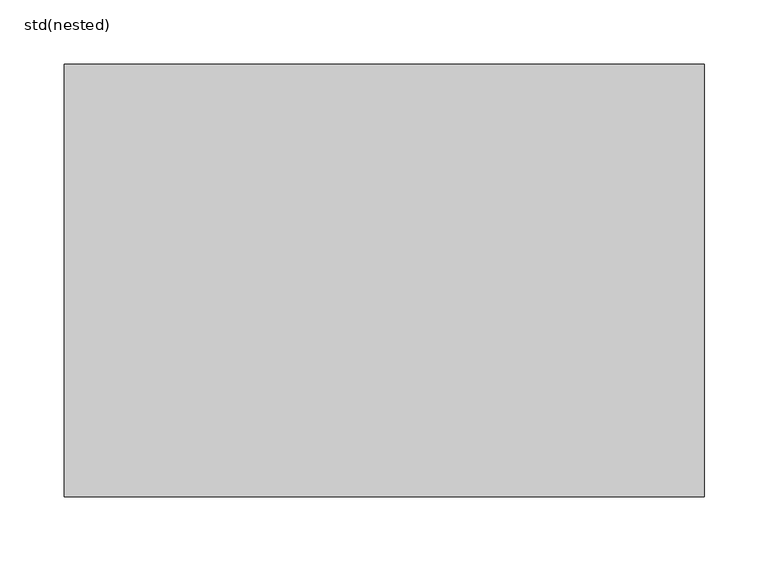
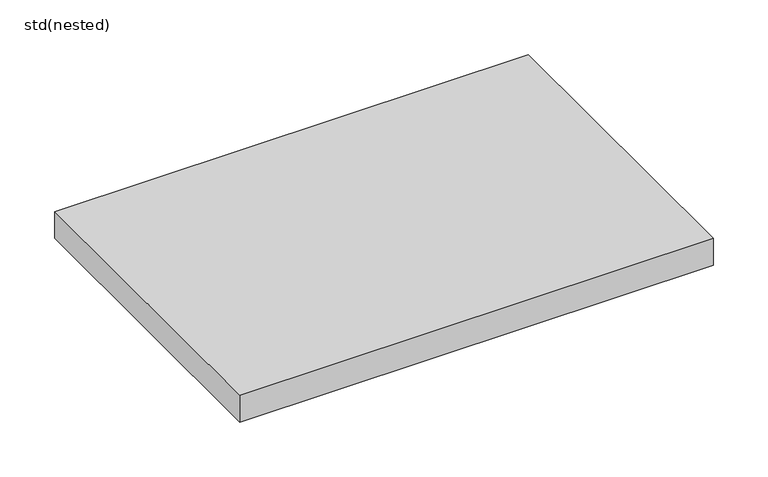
"""IFC4 building model written with IfcOpenShell, lengths in millimetres: sanitary terminal geometry, ZZZ_do not use_PF_ST_H300K_gratings_USA_ACO : std(nested)."""

import ifcopenshell
import ifcopenshell.guid

model = None  # the IFC model being written
_history = None  # IfcOwnerHistory: only IFC2X3 demands one
_inside = {}  # id of a spatial element -> (the spatial element, [elements in it])
_under = {}  # id of a project, library or spatial element -> (it, [spatial elements below it])
_declared = {}  # id of a project -> (the project, [libraries it declares])
_typed = {}  # id of a type object -> (the type object, [elements of that type])
_made_of = {}  # id of a material, layer set ... -> (it, [elements and type objects made of it])


def new_model(schema):
    """Start an empty IFC model of exactly this schema.

    Asked for "IFC4X3", IfcOpenShell would pick the latest addendum, in which some entities
    have other attributes; the version numbers below select the first issue.
    IFC2X3 requires an IfcOwnerHistory on every rooted entity: one is made here for all.
    """
    global model, _history
    if schema == "IFC4X3":
        model = ifcopenshell.file(schema_version=(4, 3, 0, 0))
    else:
        model = ifcopenshell.file(schema=schema)
    _inside.clear()
    _under.clear()
    _declared.clear()
    _typed.clear()
    _made_of.clear()
    _history = None
    if model.schema == "IFC2X3":
        org = make("IfcOrganization", Name="unknown")
        user = make(
            "IfcPersonAndOrganization",
            ThePerson=make("IfcPerson", FamilyName="unknown"),
            TheOrganization=org,
        )
        app = make(
            "IfcApplication",
            ApplicationDeveloper=org,
            Version="unknown",
            ApplicationFullName="unknown",
            ApplicationIdentifier="unknown",
        )
        _history = make(
            "IfcOwnerHistory",
            OwningUser=user,
            OwningApplication=app,
            ChangeAction="ADDED",
            CreationDate=0,
        )
    return model


def make(cls, **values):
    """One entity of the class cls with the attributes given. An attribute that is None is left unset."""
    return model.create_entity(
        cls, **{name: value for name, value in values.items() if value is not None}
    )


def rooted(cls, **values):
    """An entity with a GlobalId (a new one), such as an element, a storey or a relation."""
    return make(cls, GlobalId=ifcopenshell.guid.new(), OwnerHistory=_history, **values)


def si_unit(unit_type, name, prefix=None):
    """IfcSIUnit, for example si_unit("LENGTHUNIT", "METRE", prefix="MILLI")."""
    return make("IfcSIUnit", UnitType=unit_type, Prefix=prefix, Name=name)


def assignment(units):
    """IfcUnitAssignment: the units of a project."""
    return None if units is None else make("IfcUnitAssignment", Units=units)


def point(xyz):
    """IfcCartesianPoint."""
    return None if xyz is None else make("IfcCartesianPoint", Coordinates=xyz)


def direction(xyz):
    """IfcDirection."""
    return None if xyz is None else make("IfcDirection", DirectionRatios=xyz)


def frame(location, z_axis=None, x_axis=None):
    """IfcAxis2Placement3D, a coordinate frame: its origin and axes. An axis left out is left unset."""
    return make(
        "IfcAxis2Placement3D",
        Location=point(location),
        Axis=direction(z_axis),
        RefDirection=direction(x_axis),
    )


def origin():
    """The frame at (0, 0, 0) with its axes left unset."""
    return frame((0.0, 0.0, 0.0))


def place(relative_to, where):
    """IfcLocalPlacement: puts the frame where relative to a parent placement (None: the world)."""
    return make(
        "IfcLocalPlacement", PlacementRelTo=relative_to, RelativePlacement=where
    )


def context(
    kind, dimensions, precision=None, world=None, true_north=None, identifier=None
):
    """IfcGeometricRepresentationContext, for example the 3D "Model" context."""
    return make(
        "IfcGeometricRepresentationContext",
        ContextIdentifier=identifier,
        ContextType=kind,
        CoordinateSpaceDimension=dimensions,
        Precision=precision,
        WorldCoordinateSystem=world,
        TrueNorth=true_north,
    )


def project(units=None, contexts=None):
    """IfcProject with its units and contexts."""
    return rooted(
        "IfcProject",
        Name="project",
        RepresentationContexts=contexts,
        UnitsInContext=assignment(units),
    )


def spatial(cls, under=None, at=None, **own):
    """A site, building, storey or space (cls), placed at a placement, below another one or the project."""
    s = rooted(cls, ObjectPlacement=at, **own)
    if under is not None:
        _under.setdefault(under.id(), (under, []))[1].append(s)
    return s


def polyline(points):
    """IfcPolyline through the points."""
    return make("IfcPolyline", Points=[point(p) for p in points])


def outline(outer, holes=None, kind="AREA"):
    """IfcArbitraryClosedProfileDef: a profile drawn as a closed curve; with holes, ...WithVoids."""
    if holes is None:
        return make("IfcArbitraryClosedProfileDef", ProfileType=kind, OuterCurve=outer)
    return make(
        "IfcArbitraryProfileDefWithVoids",
        ProfileType=kind,
        OuterCurve=outer,
        InnerCurves=holes,
    )


def extrude(swept, where, along, depth):
    """IfcExtrudedAreaSolid: the profile swept, set in the frame where, extruded along a direction by depth."""
    return make(
        "IfcExtrudedAreaSolid",
        SweptArea=swept,
        Position=where,
        ExtrudedDirection=direction(along),
        Depth=depth,
    )


def shape(context_of_items, identifier, shape_type, items):
    """IfcShapeRepresentation: the items that make up one representation, for example the "Body"."""
    return make(
        "IfcShapeRepresentation",
        ContextOfItems=context_of_items,
        RepresentationIdentifier=identifier,
        RepresentationType=shape_type,
        Items=items,
    )


def source(mapping_origin, context_of_items, identifier, shape_type, items):
    """IfcRepresentationMap: a shape defined once, which mapped items show again and again."""
    return make(
        "IfcRepresentationMap",
        MappingOrigin=mapping_origin,
        MappedRepresentation=shape(context_of_items, identifier, shape_type, items),
    )


def transform(
    local_origin,
    x_axis=None,
    y_axis=None,
    z_axis=None,
    scale=None,
    scale2=None,
    scale3=None,
    uniform=True,
):
    """IfcCartesianTransformationOperator3D, or its non-uniform kind. x_axis, y_axis, z_axis: its Axis1, 2, 3."""
    if uniform:
        return make(
            "IfcCartesianTransformationOperator3D",
            Axis1=direction(x_axis),
            Axis2=direction(y_axis),
            LocalOrigin=point(local_origin),
            Scale=scale,
            Axis3=direction(z_axis),
        )
    return make(
        "IfcCartesianTransformationOperator3DnonUniform",
        Axis1=direction(x_axis),
        Axis2=direction(y_axis),
        LocalOrigin=point(local_origin),
        Scale=scale,
        Axis3=direction(z_axis),
        Scale2=scale2,
        Scale3=scale3,
    )


def mapped(mapping_source, mapping_target):
    """IfcMappedItem: shows the shape of a source again, moved by a transform."""
    return make(
        "IfcMappedItem", MappingSource=mapping_source, MappingTarget=mapping_target
    )


def made_of(thing, what):
    """Note that an element or type object is made of a material, layer set ...; save() writes the relation."""
    if what is not None:
        _made_of.setdefault(what.id(), (what, []))[1].append(thing)
    return thing


def element(
    cls,
    number,
    at=None,
    inside=None,
    cuts=None,
    type_object=None,
    material=None,
    context=None,
    identifier="Body",
    shape_type=None,
    held_by="IfcProductDefinitionShape",
    body=None,
    shapes=None,
    **own,
):
    """One element of the class cls, such as IfcWall. Its Tag is "e" and its number.

    at: its placement. inside: the storey or other place that contains it. cuts: it is an
    opening in that element (IfcRelVoidsElement). A single representation is given by context,
    identifier, shape_type and body (its items); several are given by shapes. held_by: the class
    of the entity that holds the representations. save() writes the other relations.
    """
    e = rooted(cls, Tag="e%d" % number, ObjectPlacement=at, **own)
    if body is not None:
        shapes = [shape(context, identifier, shape_type, body)]
    if shapes is not None:
        e.Representation = make(held_by, Representations=shapes)
    if inside is not None:
        _inside.setdefault(inside.id(), (inside, []))[1].append(e)
    if cuts is not None:
        rooted(
            "IfcRelVoidsElement", RelatingBuildingElement=cuts, RelatedOpeningElement=e
        )
    if type_object is not None:
        _typed.setdefault(type_object.id(), (type_object, []))[1].append(e)
    return made_of(e, material)


def aggregate(whole, parts):
    """IfcRelAggregates: a whole, such as a stair, and the parts it consists of."""
    return rooted("IfcRelAggregates", RelatingObject=whole, RelatedObjects=parts)


def save(model, path):
    """Write the relations noted so far, then the file.

    IfcRelAggregates (storeys below a building ...), IfcRelContainedInSpatialStructure (elements
    in a storey), IfcRelDefinesByType, IfcRelAssociatesMaterial and IfcRelDeclares: one each for
    every whole, place, type object, material and project.
    """
    for whole, parts in _under.values():
        aggregate(whole, parts)
    for where, things in _inside.values():
        rooted(
            "IfcRelContainedInSpatialStructure",
            RelatedElements=things,
            RelatingStructure=where,
        )
    for kind, things in _typed.values():
        rooted("IfcRelDefinesByType", RelatedObjects=things, RelatingType=kind)
    for what, things in _made_of.values():
        rooted("IfcRelAssociatesMaterial", RelatedObjects=things, RelatingMaterial=what)
    for by, libraries in _declared.values():
        rooted("IfcRelDeclares", RelatingContext=by, RelatedDefinitions=libraries)
    model.write(path)


def std_nested_1f435ce7(model_context):
    return source(origin(), model_context, "Body", "SweptSolid", [
        extrude(outline(polyline([(250.0, 169.0), (250.0, -169.0), (-250.0, -169.0), (-250.0, 169.0), (250.0, 169.0)])), frame((0.0, 0.0, -30.0), z_axis=(0.0, 0.0, 1.0), x_axis=(1.0, 0.0, 0.0)), (0.0, 0.0, 1.0), 30.0),
    ])


if __name__ == "__main__":
    model = new_model("IFC4")
    model_context = context("Model", 3, world=origin())
    ifc_project = project(units=[si_unit("LENGTHUNIT", "METRE", prefix="MILLI")], contexts=[model_context])
    site = spatial("IfcSite", under=ifc_project)
    building = spatial("IfcBuilding", under=site)
    placement = place(None, origin())
    std_nested_shape = std_nested_1f435ce7(model_context)
    element("IfcSanitaryTerminal", 1, ObjectType="ZZZ_do not use_PF_ST_H300K_gratings_USA_ACO : std(nested)", at=placement, inside=building, context=model_context, shape_type="MappedRepresentation", body=[
        mapped(std_nested_shape, transform((0.0, 0.0, 0.0), x_axis=(1.0, 0.0, 0.0), y_axis=(0.0, 1.0, 0.0), z_axis=(0.0, 0.0, 1.0))),
    ])
    save(model, "model.ifc")
